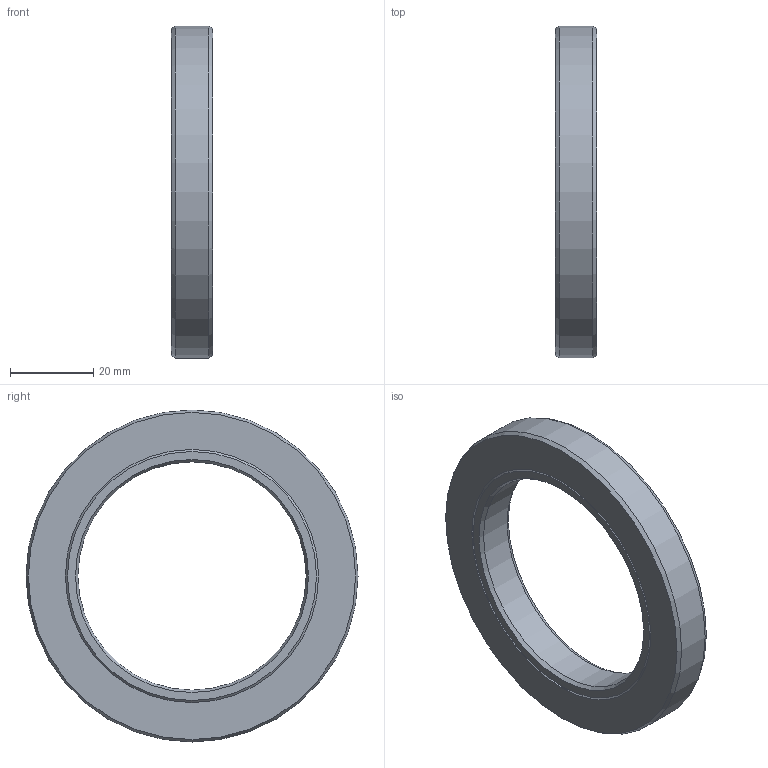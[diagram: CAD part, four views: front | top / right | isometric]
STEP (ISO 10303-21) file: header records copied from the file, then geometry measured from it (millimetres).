
FILE_DESCRIPTION(/* description */ (''),/* implementation_level */ '2;1');
FILE_NAME(/* name */ '301886 SA 55x80x10.stp',/* time_stamp */ '2016-12-16T15:14:10+01:00',/* author */ (''),/* organization */ (''),/* preprocessor_version */ 'ST-DEVELOPER v15',/* originating_system */ 'SIEMENS PLM Software NX 8.5',/* authorisation */ '');
FILE_SCHEMA (('CONFIG_CONTROL_DESIGN'));
Length unit declared in the file: millimetre
Products named in the file (1): ATE0000144_01
Bounding box: 10 x 80 x 80 mm (x, y, z)
Volume: 25089.9 mm3; surface area: 14496.2 mm2
Topology: 2 solids, 2 shells, 18 faces, 37 edges, 23 vertices
Faces by surface type: cone 10, plane 5, cylinder 3
Full cylindrical faces by diameter (mm): 55 x1, 80 x1
Entity records: 492 total; most frequent: DIRECTION 76, CARTESIAN_POINT 74, ORIENTED_EDGE 46, AXIS2_PLACEMENT_3D 38, EDGE_LOOP 33, FACE_BOUND 30, EDGE_CURVE 23, VERTEX_POINT 20
